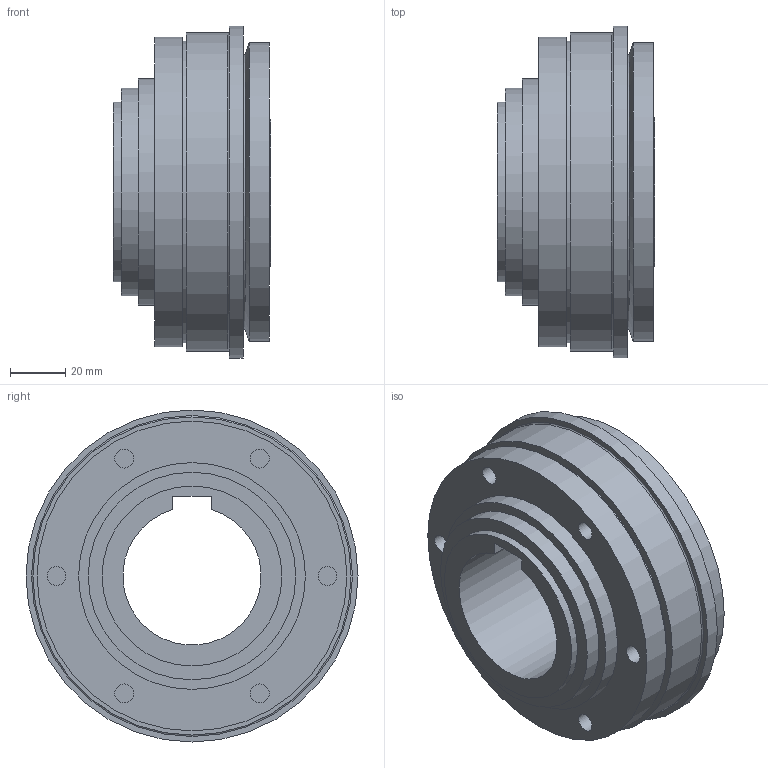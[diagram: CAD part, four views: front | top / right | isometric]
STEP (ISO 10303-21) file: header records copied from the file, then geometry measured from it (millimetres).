
FILE_DESCRIPTION(/* description */ ('STEP AP214'),/* implementation_level */ '2;1');
FILE_NAME(/* name */ 'C:\Diequa Files\DieQua Coupling\THK\STP\THK.300.57.WDG.#.stp',/* time_stamp */ '2019-03-19T11:21:49-05:00',/* author */ ('DiequaCAD'),/* organization */ (''),/* preprocessor_version */ 'ST-DEVELOPER v17.2',/* originating_system */ 'Autodesk Inventor 2019',/* authorisation */ ' ');
FILE_SCHEMA (('AUTOMOTIVE_DESIGN { 1 0 10303 214 3 1 1 }'));
Length unit declared in the file: millimetre
Products named in the file (1): THK.300.57.WDG.#
Bounding box: 57 x 120 x 120 mm (x, y, z)
Volume: 366909 mm3; surface area: 51116.6 mm2
Topology: 1 solids, 1 shells, 38 faces, 68 edges, 45 vertices
Faces by surface type: plane 19, cylinder 17, cone 1, torus 1
Full cylindrical faces by diameter (mm): 6.8 x6, 65 x1, 75 x1, 82 x1, 99.2 x1, 108 x1, 109 x1, 112 x1, 115 x1, 120 x1
Entity records: 996 total; most frequent: DIRECTION 184, CARTESIAN_POINT 152, ORIENTED_EDGE 136, AXIS2_PLACEMENT_3D 77, EDGE_CURVE 68, EDGE_LOOP 53, VERTEX_POINT 45, FACE_OUTER_BOUND 38
